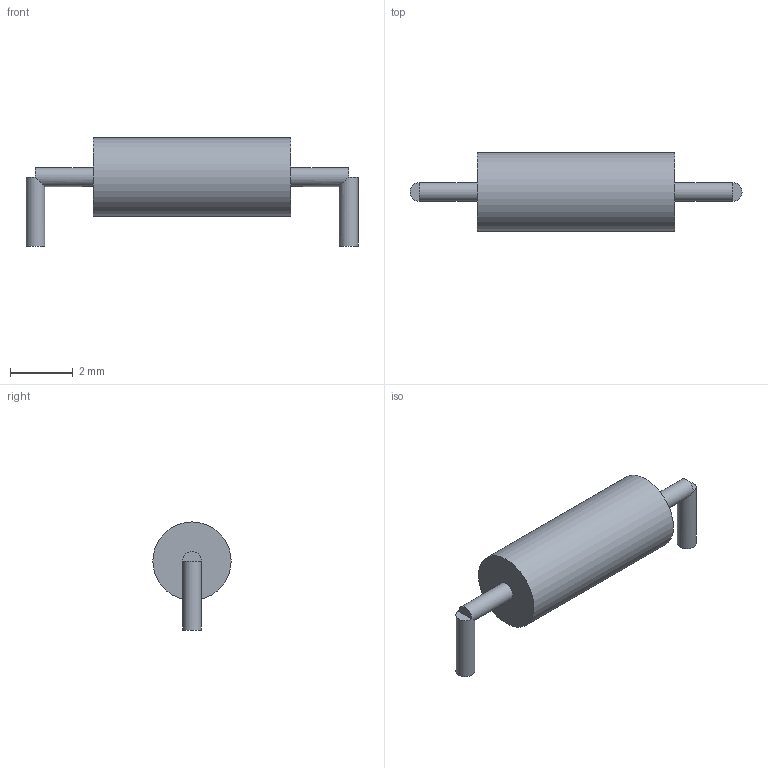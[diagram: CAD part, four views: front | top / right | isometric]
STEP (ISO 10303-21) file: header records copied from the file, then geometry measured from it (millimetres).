
FILE_DESCRIPTION(('Open CASCADE Model'),'2;1');
FILE_NAME('Open CASCADE Shape Model','2026-10-05T13:12:06',('Author'),( 'Open CASCADE'),'Open CASCADE STEP processor 7.8','Open CASCADE 7.8' ,'Unknown');
FILE_SCHEMA(('AUTOMOTIVE_DESIGN { 1 0 10303 214 1 1 1 1 }'));
Length unit declared in the file: millimetre
Products named in the file (1): Open CASCADE STEP translator 7.8 4
Bounding box: 10.6 x 2.5 x 3.45 mm (x, y, z)
Volume: 33.1 mm3; surface area: 74.4 mm2
Topology: 1 solids, 1 shells, 13 faces, 23 edges, 14 vertices
Faces by surface type: plane 8, cylinder 5
Full cylindrical faces by diameter (mm): 0.6 x4, 2.5 x1
Entity records: 658 total; most frequent: CARTESIAN_POINT 145, DIRECTION 103, ORIENTED_EDGE 46, PCURVE 46, DEFINITIONAL_REPRESENTATION 46, AXIS2_PLACEMENT_3D 30, LINE 30, VECTOR 30
